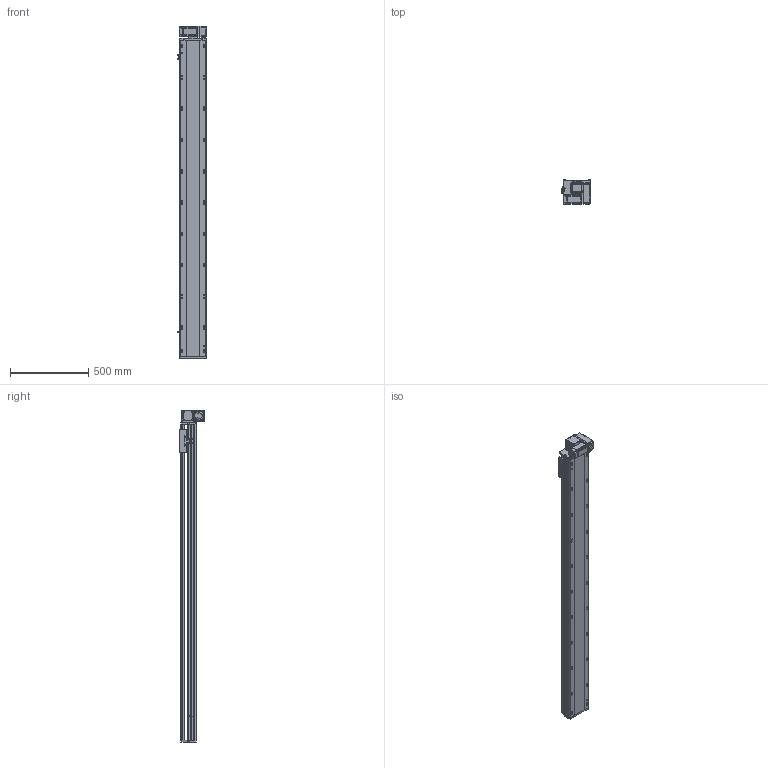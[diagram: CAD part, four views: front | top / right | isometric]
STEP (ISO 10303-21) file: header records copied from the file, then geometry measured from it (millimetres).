
FILE_DESCRIPTION (( 'STEP AP214' ), '1' );
FILE_NAME ('RTB17S-XX-1750-RM-M40-C4.STEP', '2025-12-11T08:22:19', ( '' ), ( '' ), 'SwSTEP 2.0', 'SolidWorks 2018', '' );
FILE_SCHEMA (( 'AUTOMOTIVE_DESIGN' ));
Length unit declared in the file: millimetre
Products named in the file (14): RTB14-L-017P^RTB17S-RM-々湍釱蚾饜-400W_RTB17S-XX-XX-RM-M40-C4; RTB17S-L-014-T20--々湍釱^RTB17S-RM-々湍釱蚾饜-400W_RTB17S-XX-XX-RM-M40-C4; RTH13-BL-012覜茼え俋离^RTB17S-XX-XX-RM-M40-C4; 400W侜督萇儂^RTB17S-XX-XX-RM-M40-C4; RTB14-L-008-M20--萇儂啣^RTB17S-RM-々湍釱蚾饜-400W_RTB17S-XX-XX-RM-M40-C4; RTB17S-L-001耜醱啣^RTB17S-XX-XX-RM-M40-C4; RTB14-L-005P--轴承塑胶压盖^RTB17S-RM-皮带座装配-400W_RTB17S-XX-XX-RM-M40-C4; RTB17-R-011菁釱^RTB17S-XX-XX-RM-M40-C4; RTB14-L-018P^RTB17S-RM-々湍釱蚾饜-400W_RTB17S-XX-XX-RM-M40-C4; OMRON EE-SX672 传感器^RTB17S-XX-XX-RM-M40-C4; RTB17S-L-007奻裔^RTB17S-XX-XX-RM-M40-C4; RTB17S-XX-1750-RM-M40-C4; RTB17S-L-004佪裝蹟譫蟀諉釱^RTB17S-XX-XX-RM-M40-C4; RTB17S-RM-々湍釱蚾饜-400W^RTB17S-XX-XX-RM-M40-C4
Assembly tree (16 placements, depth 3):
  RTB17S-XX-1750-RM-M40-C4
    RTB17-R-011菁釱^RTB17S-XX-XX-RM-M40-C4
    RTB17S-L-007奻裔^RTB17S-XX-XX-RM-M40-C4
    OMRON EE-SX672 传感器^RTB17S-XX-XX-RM-M40-C4  x3
    RTB17S-L-001耜醱啣^RTB17S-XX-XX-RM-M40-C4
    400W侜督萇儂^RTB17S-XX-XX-RM-M40-C4
    RTB17S-L-004佪裝蹟譫蟀諉釱^RTB17S-XX-XX-RM-M40-C4
    RTH13-BL-012覜茼え俋离^RTB17S-XX-XX-RM-M40-C4
    RTB17S-RM-々湍釱蚾饜-400W^RTB17S-XX-XX-RM-M40-C4
      RTB17S-L-014-T20--々湍釱^RTB17S-RM-々湍釱蚾饜-400W_RTB17S-XX-XX-RM-M40-C4
      RTB14-L-005P--轴承塑胶压盖^RTB17S-RM-皮带座装配-400W_RTB17S-XX-XX-RM-M40-C4
      RTB14-L-008-M20--萇儂啣^RTB17S-RM-々湍釱蚾饜-400W_RTB17S-XX-XX-RM-M40-C4
      RTB14-L-017P^RTB17S-RM-々湍釱蚾饜-400W_RTB17S-XX-XX-RM-M40-C4  x2
      RTB14-L-018P^RTB17S-RM-々湍釱蚾饜-400W_RTB17S-XX-XX-RM-M40-C4
Bounding box: 183.5 x 156.5 x 2122.5 mm (x, y, z)
Volume: 18490544.7 mm3; surface area: 2165033.4 mm2
Topology: 15 solids, 15 shells, 2269 faces, 6303 edges, 4113 vertices
Faces by surface type: plane 1076, cylinder 745, bspline 301, cone 139, torus 8
Entity records: 65705 total; most frequent: CARTESIAN_POINT 18508, ORIENTED_EDGE 9450, DIRECTION 8756, EDGE_CURVE 4725, VERTEX_POINT 3101, AXIS2_PLACEMENT_3D 3031, LINE 2694, VECTOR 2694
